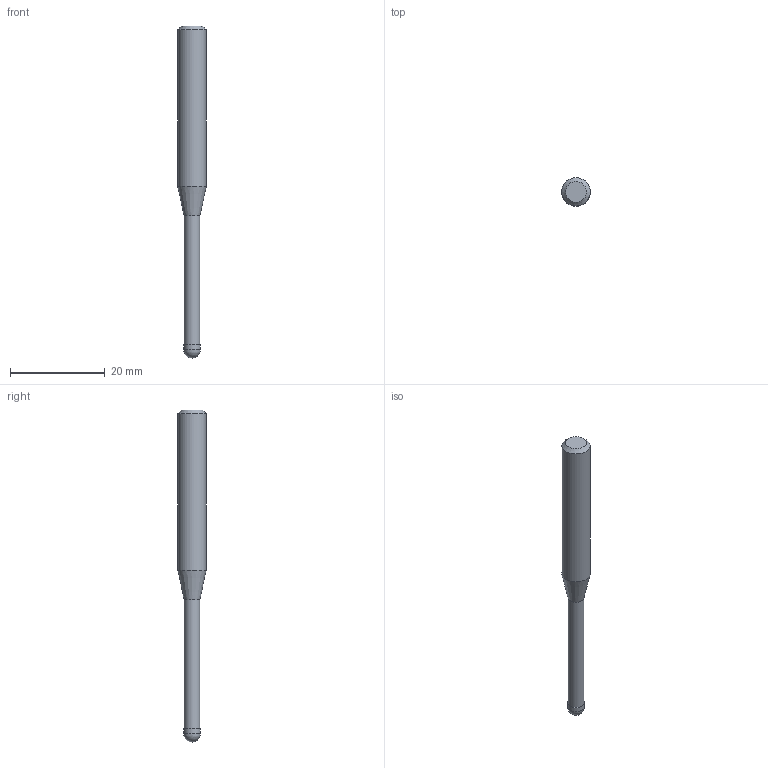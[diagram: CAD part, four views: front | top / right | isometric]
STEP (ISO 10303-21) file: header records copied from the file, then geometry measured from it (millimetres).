
FILE_DESCRIPTION((''),'2;1');
FILE_NAME('C:\Users\nsx150\AppData\Local\Temp\Mastercam 2021\3SYKECWX22\TEMP.step','2021-04-22T10:05:12',(''),(''),'STEP Write','Mastercam 2021 ... CNC Software, Inc.','');
FILE_SCHEMA(('AUTOMOTIVE_DESIGN'));
Length unit declared in the file: millimetre
Products named in the file (1): None
Bounding box: 6 x 6 x 70 mm (x, y, z)
Volume: 1320.2 mm3; surface area: 1084.2 mm2
Topology: 2 solids, 2 shells, 9 faces, 14 edges, 8 vertices
Faces by surface type: plane 3, cylinder 3, cone 2, sphere 1
Full cylindrical faces by diameter (mm): 3.35 x1, 3.5 x1, 6 x1
Entity records: 211 total; most frequent: DIRECTION 36, CARTESIAN_POINT 25, AXIS2_PLACEMENT_3D 18, ORIENTED_EDGE 14, EDGE_LOOP 14, STYLED_ITEM 12, ADVANCED_FACE 9, FACE_BOUND 8
